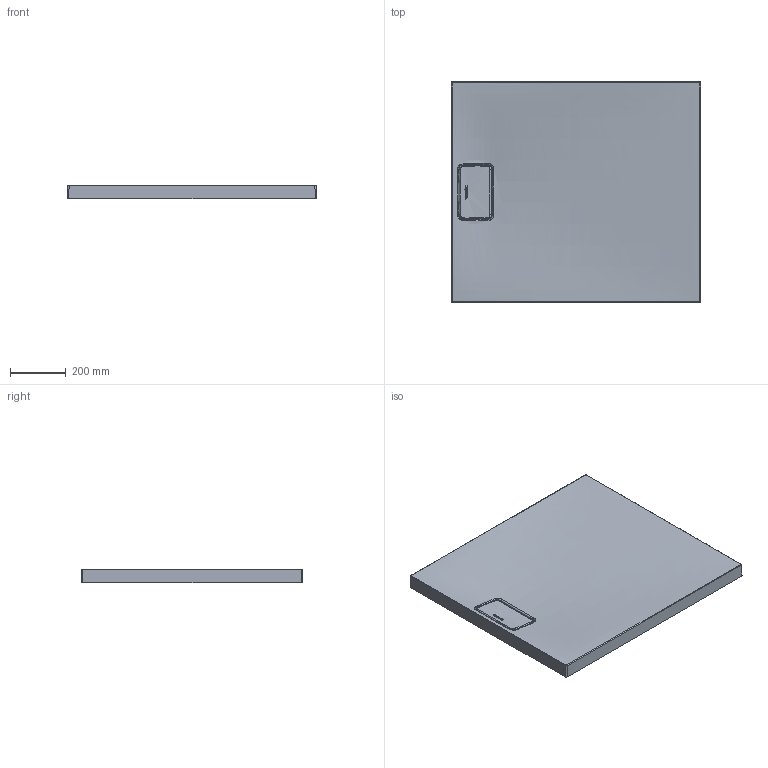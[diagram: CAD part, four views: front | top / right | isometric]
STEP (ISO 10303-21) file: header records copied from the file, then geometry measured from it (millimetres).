
FILE_DESCRIPTION((''),'2;1');
FILE_NAME('C:\Users\Administrator\Desktop\NEWS 2015 Step 1\Stonetto DW\3d\stp\720145.stp','2015-06-23T08:21:11',('Administrator'),(''),'Autodesk Inventor 2011','Autodesk Inventor 2011','');
FILE_SCHEMA(('CONFIG_CONTROL_DESIGN'));
Length unit declared in the file: millimetre
Products named in the file (3): 720145; Ablaufabdeckung
Assembly tree (2 placements, depth 2):
  720145
    720145
    Ablaufabdeckung
Bounding box: 898 x 798 x 50.03 mm (x, y, z)
Volume: 9932922.4 mm3; surface area: 1855738.1 mm2
Topology: 2 solids, 2 shells, 769 faces, 1953 edges, 1213 vertices
Faces by surface type: bspline 337, plane 267, cylinder 127, torus 17, sphere 16, cone 5
Entity records: 86153 total; most frequent: CARTESIAN_POINT 69695, ORIENTED_EDGE 3870, DIRECTION 2321, EDGE_CURVE 1935, VERTEX_POINT 1208, B_SPLINE_CURVE_WITH_KNOTS 960, AXIS2_PLACEMENT_3D 909, EDGE_LOOP 809
